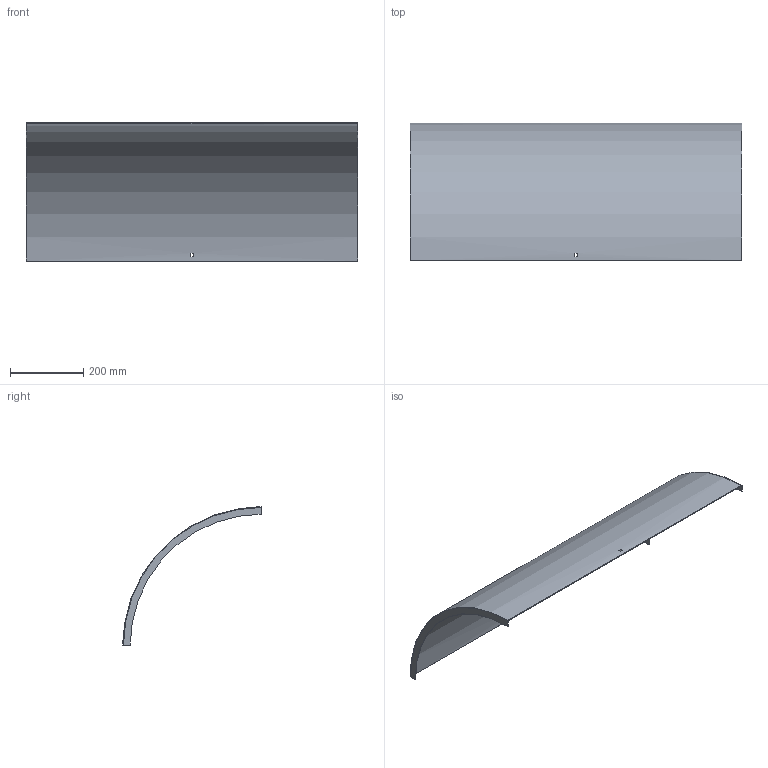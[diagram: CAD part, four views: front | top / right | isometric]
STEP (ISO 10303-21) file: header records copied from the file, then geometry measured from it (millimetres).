
FILE_DESCRIPTION (( 'STEP AP214' ), '1' );
FILE_NAME ('B2_33N3C900.step', '2025-02-21T10:46:50', ( '' ), ( '' ), 'SwSTEP 2.0', 'SolidWorks 2023', '' );
FILE_SCHEMA (( 'AUTOMOTIVE_DESIGN' ));
Length unit declared in the file: millimetre
Products named in the file (1): B2_33N3C900
Bounding box: 903 x 376.5 x 376.5 mm (x, y, z)
Volume: 831172.2 mm3; surface area: 1112826.2 mm2
Topology: 1 solids, 1 shells, 18 faces, 48 edges, 32 vertices
Faces by surface type: plane 14, cylinder 4
Entity records: 599 total; most frequent: DIRECTION 102, CARTESIAN_POINT 99, ORIENTED_EDGE 96, EDGE_CURVE 48, AXIS2_PLACEMENT_3D 35, VERTEX_POINT 32, VECTOR 32, LINE 32
